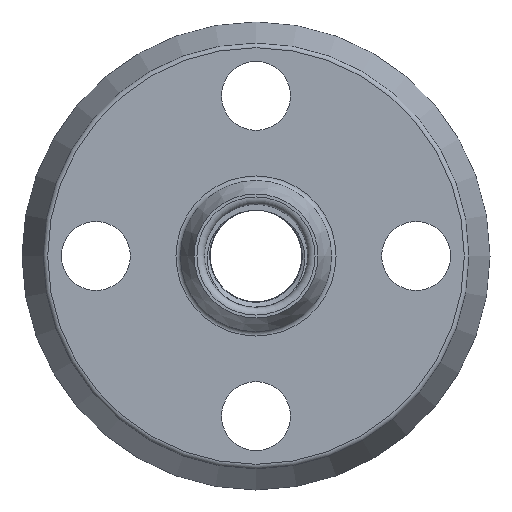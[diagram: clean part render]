
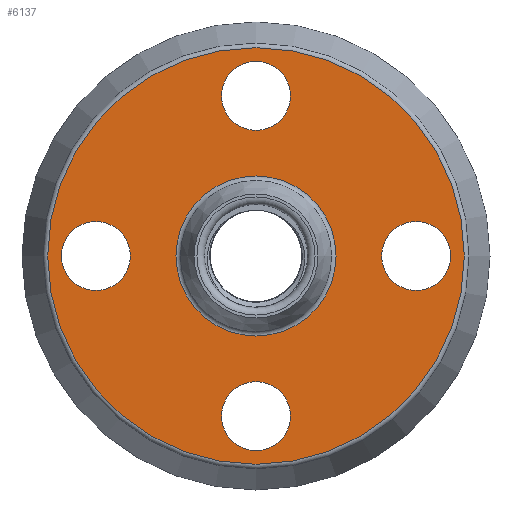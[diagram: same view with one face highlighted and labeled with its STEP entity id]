
A CAD part, left-side view. The second image highlights one B-rep face of the part: STEP entity #6137.
In plain terms, the highlighted planar face has unit normal (-1, 0, 0).
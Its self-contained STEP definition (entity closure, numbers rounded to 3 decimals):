
#74=FACE_BOUND('',#1264,.T.);
#75=FACE_BOUND('',#1265,.T.);
#76=FACE_BOUND('',#1266,.T.);
#77=FACE_BOUND('',#1267,.T.);
#78=FACE_BOUND('',#1268,.T.);
#137=PLANE('',#7239);
#790=FACE_OUTER_BOUND('',#1263,.T.);
#1263=EDGE_LOOP('',(#5472));
#1264=EDGE_LOOP('',(#5473));
#1265=EDGE_LOOP('',(#5474));
#1266=EDGE_LOOP('',(#5475));
#1267=EDGE_LOOP('',(#5476));
#1268=EDGE_LOOP('',(#5477));
#2357=CIRCLE('',#7223,7.);
#2359=CIRCLE('',#7227,7.);
#2361=CIRCLE('',#7231,7.);
#2363=CIRCLE('',#7235,7.);
#2364=CIRCLE('',#7237,16.244);
#2366=CIRCLE('',#7240,42.28);
#2846=VERTEX_POINT('',#11419);
#2848=VERTEX_POINT('',#11425);
#2850=VERTEX_POINT('',#11431);
#2852=VERTEX_POINT('',#11437);
#2853=VERTEX_POINT('',#11440);
#2855=VERTEX_POINT('',#11445);
#3731=EDGE_CURVE('',#2846,#2846,#2357,.T.);
#3733=EDGE_CURVE('',#2848,#2848,#2359,.T.);
#3735=EDGE_CURVE('',#2850,#2850,#2361,.T.);
#3737=EDGE_CURVE('',#2852,#2852,#2363,.T.);
#3738=EDGE_CURVE('',#2853,#2853,#2364,.T.);
#3740=EDGE_CURVE('',#2855,#2855,#2366,.T.);
#5472=ORIENTED_EDGE('',*,*,#3740,.F.);
#5473=ORIENTED_EDGE('',*,*,#3733,.T.);
#5474=ORIENTED_EDGE('',*,*,#3735,.T.);
#5475=ORIENTED_EDGE('',*,*,#3737,.T.);
#5476=ORIENTED_EDGE('',*,*,#3731,.T.);
#5477=ORIENTED_EDGE('',*,*,#3738,.F.);
#6137=ADVANCED_FACE('',(#790,#74,#75,#76,#77,#78),#137,.T.);
#7223=AXIS2_PLACEMENT_3D('',#11420,#9585,#9586);
#7227=AXIS2_PLACEMENT_3D('',#11426,#9593,#9594);
#7231=AXIS2_PLACEMENT_3D('',#11432,#9601,#9602);
#7235=AXIS2_PLACEMENT_3D('',#11438,#9609,#9610);
#7237=AXIS2_PLACEMENT_3D('',#11441,#9613,#9614);
#7239=AXIS2_PLACEMENT_3D('',#11444,#9617,#9618);
#7240=AXIS2_PLACEMENT_3D('',#11446,#9619,#9620);
#9585=DIRECTION('center_axis',(1.,0.,0.));
#9586=DIRECTION('ref_axis',(0.,0.,1.));
#9593=DIRECTION('center_axis',(1.,0.,0.));
#9594=DIRECTION('ref_axis',(0.,1.,0.));
#9601=DIRECTION('center_axis',(1.,0.,0.));
#9602=DIRECTION('ref_axis',(0.,0.,-1.));
#9609=DIRECTION('center_axis',(1.,0.,0.));
#9610=DIRECTION('ref_axis',(0.,-1.,0.));
#9613=DIRECTION('center_axis',(-1.,0.,0.));
#9614=DIRECTION('ref_axis',(0.,1.,0.));
#9617=DIRECTION('center_axis',(-1.,0.,0.));
#9618=DIRECTION('ref_axis',(0.,0.,1.));
#9619=DIRECTION('center_axis',(1.,0.,0.));
#9620=DIRECTION('ref_axis',(0.,1.,0.));
#11419=CARTESIAN_POINT('',(7.25,32.5,7.));
#11420=CARTESIAN_POINT('Origin',(7.25,32.5,0.));
#11425=CARTESIAN_POINT('',(7.25,7.,-32.5));
#11426=CARTESIAN_POINT('Origin',(7.25,0.,
-32.5));
#11431=CARTESIAN_POINT('',(7.25,-32.5,-7.));
#11432=CARTESIAN_POINT('Origin',(7.25,-32.5,0.));
#11437=CARTESIAN_POINT('',(7.25,-7.,32.5));
#11438=CARTESIAN_POINT('Origin',(7.25,0.,
32.5));
#11440=CARTESIAN_POINT('',(7.25,-16.244,0.));
#11441=CARTESIAN_POINT('Origin',(7.25,0.,0.));
#11444=CARTESIAN_POINT('Origin',(7.25,-15.576,0.));
#11445=CARTESIAN_POINT('',(7.25,-42.28,0.));
#11446=CARTESIAN_POINT('Origin',(7.25,0.,0.));
